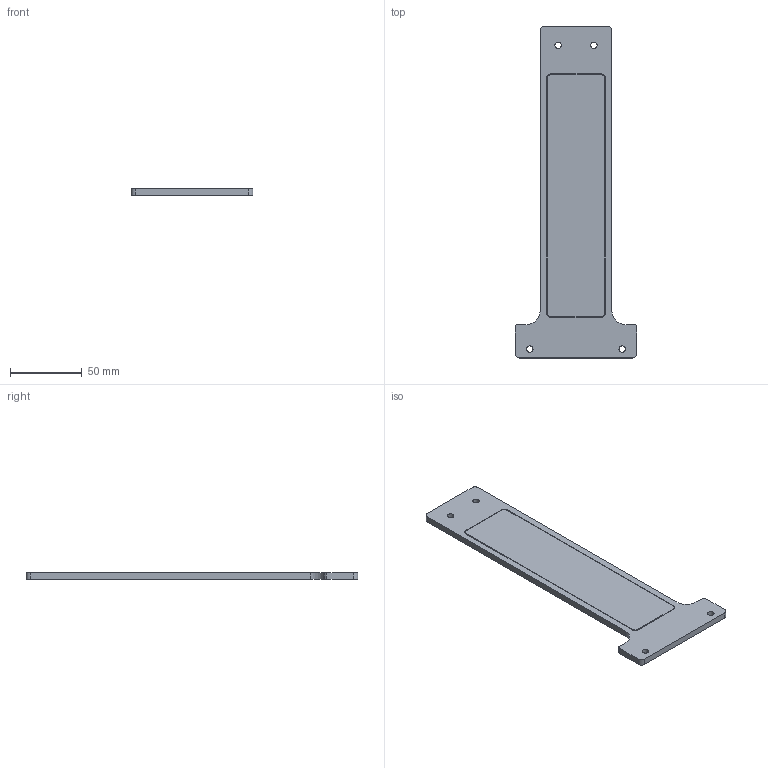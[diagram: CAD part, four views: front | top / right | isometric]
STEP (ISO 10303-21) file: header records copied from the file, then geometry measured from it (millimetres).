
FILE_DESCRIPTION (( 'STEP AP214' ), '1' );
FILE_NAME ('MONO_038-p321_01 (ARTWORK BOUNDARY).STEP', '2025-09-23T04:11:37', ( '' ), ( '' ), 'SwSTEP 2.0', 'SolidWorks 2024', '' );
FILE_SCHEMA (( 'AUTOMOTIVE_DESIGN' ));
Length unit declared in the file: millimetre
Products named in the file (1): MONO_038-p321_01 (ARTWORK BOUNDARY)
Bounding box: 85 x 231.75 x 4.5 mm (x, y, z)
Volume: 55663 mm3; surface area: 27822.9 mm2
Topology: 1 solids, 1 shells, 40 faces, 108 edges, 72 vertices
Faces by surface type: plane 20, cylinder 20
Full cylindrical faces by diameter (mm): 4.5 x4
Entity records: 1291 total; most frequent: DIRECTION 226, CARTESIAN_POINT 217, ORIENTED_EDGE 208, EDGE_CURVE 104, AXIS2_PLACEMENT_3D 81, VERTEX_POINT 72, LINE 64, VECTOR 64
